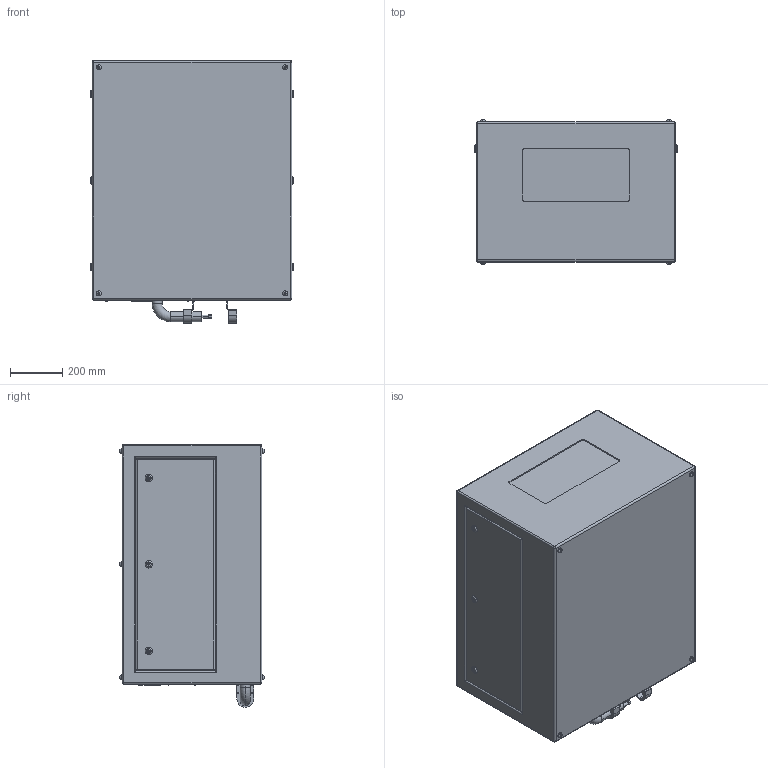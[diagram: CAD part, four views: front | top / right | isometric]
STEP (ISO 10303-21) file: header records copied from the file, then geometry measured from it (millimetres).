
FILE_DESCRIPTION (( 'STEP AP214' ), '1' );
FILE_NAME ('Oasis 59.100.L R02.STEP', '2022-08-27T15:58:58', ( '' ), ( '' ), 'SwSTEP 2.0', 'SolidWorks 2020', '' );
FILE_SCHEMA (( 'AUTOMOTIVE_DESIGN' ));
Length unit declared in the file: inch
Products named in the file (1): Oasis 59.100.L R02
Bounding box: 774.7 x 550.67 x 1003.3 mm (x, y, z)
Volume: 371174348.8 mm3; surface area: 3499369.4 mm2
Topology: 2 solids, 8 shells, 495 faces, 1131 edges, 716 vertices
Faces by surface type: plane 271, cylinder 170, torus 46, bspline 8
Entity records: 18948 total; most frequent: CARTESIAN_POINT 2855, DIRECTION 2463, ORIENTED_EDGE 2246, EDGE_CURVE 1123, AXIS2_PLACEMENT_3D 884, VERTEX_POINT 716, VECTOR 695, LINE 695
